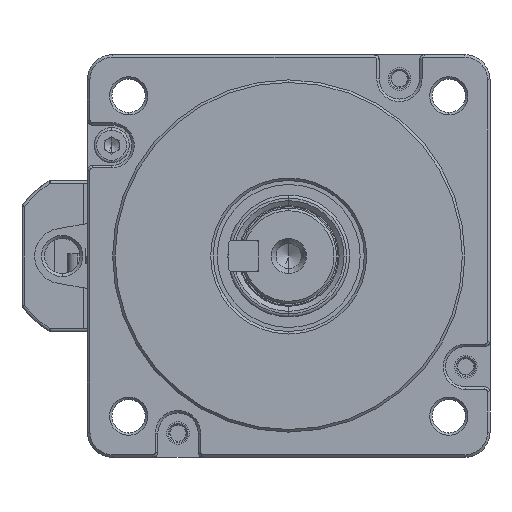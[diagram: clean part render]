
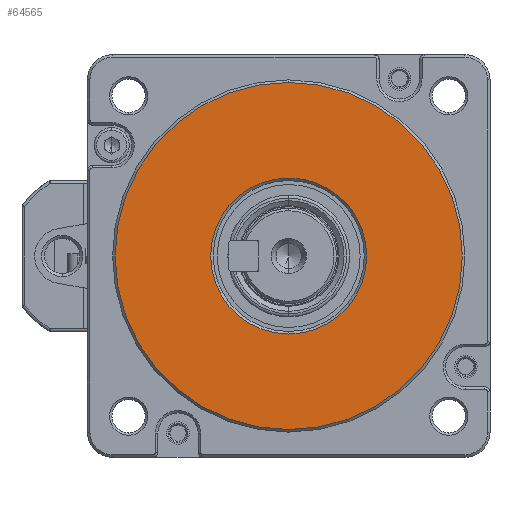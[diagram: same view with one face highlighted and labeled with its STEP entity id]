
A CAD part, left-side view. The second image highlights one B-rep face of the part: STEP entity #64565.
In plain terms, the highlighted planar face has unit normal (-1, 0, 0).
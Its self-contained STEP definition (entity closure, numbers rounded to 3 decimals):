
#55 = EDGE_LOOP ( 'NONE', ( #16295, #20070 ) ) ;
#5663 = EDGE_CURVE ( 'NONE', #31407, #34973, #17424, .T. ) ;
#5702 = EDGE_LOOP ( 'NONE', ( #24553, #30901 ) ) ;
#7576 = CARTESIAN_POINT ( 'NONE',  ( 4.324, 2.652, 37.227 ) ) ;
#8774 = VERTEX_POINT ( 'NONE', #31105 ) ;
#13701 = DIRECTION ( 'NONE',  ( 0., 0., 1. ) ) ;
#16295 = ORIENTED_EDGE ( 'NONE', *, *, #65882, .T. ) ;
#17028 = AXIS2_PLACEMENT_3D ( 'NONE', #55868, #25240, #35710 ) ;
#17424 = CIRCLE ( 'NONE', #52324, 34.5 ) ;
#19283 = CARTESIAN_POINT ( 'NONE',  ( 4.324, 2.652, 2.727 ) ) ;
#20070 = ORIENTED_EDGE ( 'NONE', *, *, #65100, .T. ) ;
#21467 = CARTESIAN_POINT ( 'NONE',  ( 4.324, 2.652, -31.773 ) ) ;
#21484 = CIRCLE ( 'NONE', #46526, 34.5 ) ;
#24553 = ORIENTED_EDGE ( 'NONE', *, *, #35655, .T. ) ;
#25240 = DIRECTION ( 'NONE',  ( 1., 0., 0. ) ) ;
#25252 = DIRECTION ( 'NONE',  ( 0., 0., 1. ) ) ;
#25619 = CARTESIAN_POINT ( 'NONE',  ( 4.324, 2.652, 2.727 ) ) ;
#28438 = CARTESIAN_POINT ( 'NONE',  ( 4.324, 2.652, 2.727 ) ) ;
#29548 = DIRECTION ( 'NONE',  ( 0., 0., 1. ) ) ;
#30394 = FACE_OUTER_BOUND ( 'NONE', #5702, .T. ) ;
#30901 = ORIENTED_EDGE ( 'NONE', *, *, #5663, .T. ) ;
#31105 = CARTESIAN_POINT ( 'NONE',  ( 4.324, 2.652, -12.773 ) ) ;
#31407 = VERTEX_POINT ( 'NONE', #7576 ) ;
#34973 = VERTEX_POINT ( 'NONE', #21467 ) ;
#34994 = AXIS2_PLACEMENT_3D ( 'NONE', #50079, #55641, #25252 ) ;
#35655 = EDGE_CURVE ( 'NONE', #34973, #31407, #21484, .T. ) ;
#35710 = DIRECTION ( 'NONE',  ( 0., 0., 1. ) ) ;
#39655 = PLANE ( 'NONE',  #65820 ) ;
#40820 = FACE_BOUND ( 'NONE', #55, .T. ) ;
#44310 = DIRECTION ( 'NONE',  ( -1., 0., 0. ) ) ;
#44719 = CIRCLE ( 'NONE', #17028, 15.5 ) ;
#45413 = CIRCLE ( 'NONE', #34994, 15.5 ) ;
#46526 = AXIS2_PLACEMENT_3D ( 'NONE', #25619, #55807, #50436 ) ;
#47770 = VERTEX_POINT ( 'NONE', #55813 ) ;
#50079 = CARTESIAN_POINT ( 'NONE',  ( 4.324, 2.652, 2.727 ) ) ;
#50436 = DIRECTION ( 'NONE',  ( 0., 0., 1. ) ) ;
#52324 = AXIS2_PLACEMENT_3D ( 'NONE', #28438, #44310, #13701 ) ;
#55039 = DIRECTION ( 'NONE',  ( -1., 0., 0. ) ) ;
#55641 = DIRECTION ( 'NONE',  ( 1., 0., 0. ) ) ;
#55807 = DIRECTION ( 'NONE',  ( -1., 0., 0. ) ) ;
#55813 = CARTESIAN_POINT ( 'NONE',  ( 4.324, 2.652, 18.227 ) ) ;
#55868 = CARTESIAN_POINT ( 'NONE',  ( 4.324, 2.652, 2.727 ) ) ;
#64565 = ADVANCED_FACE ( 'NONE', ( #30394, #40820 ), #39655, .T. ) ;
#65100 = EDGE_CURVE ( 'NONE', #8774, #47770, #44719, .T. ) ;
#65820 = AXIS2_PLACEMENT_3D ( 'NONE', #19283, #55039, #29548 ) ;
#65882 = EDGE_CURVE ( 'NONE', #47770, #8774, #45413, .T. ) ;
